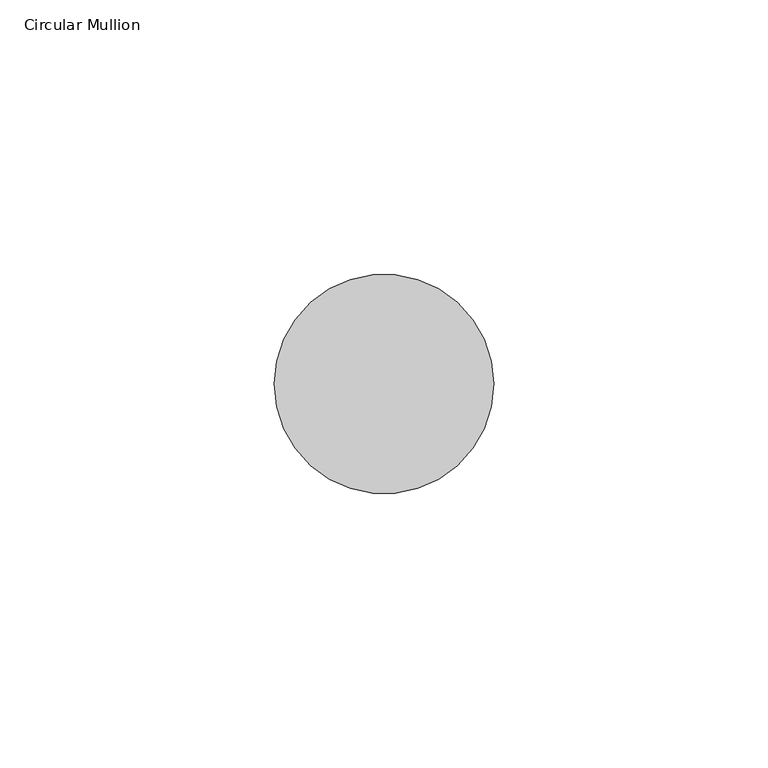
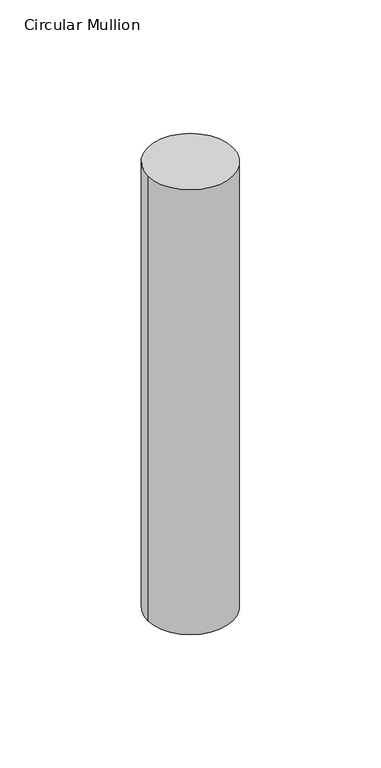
"""IFC4 building model written with IfcOpenShell, lengths in millimetres: member geometry, Circular Mullion : GRADIL 40mm."""

from ifc_helpers import new_model, si_unit, point, frame, origin, origin_2d, place, context, project, spatial, circle_curve, trimmed, segment, composite_curve, outline, extrude, source, transform, mapped, element, save


def circular_mullion_9126d0c8(model_context):
    return source(origin(), model_context, "Body", "SweptSolid", [
        extrude(outline(composite_curve([segment(trimmed(circle_curve(origin_2d(), 20.0), [point((20.0, 0.0))], [point((-20.0, 0.0))], False, "CARTESIAN"), True, "CONTINUOUS"), segment(trimmed(circle_curve(origin_2d(), 20.0), [point((-20.0, 0.0))], [point((20.0, 0.0))], False, "CARTESIAN"), True, "CONTINUOUS")], self_intersect=False)), frame((0.0, 0.0, -220.5845797), z_axis=(0.0, 0.0, 1.0), x_axis=(1.0, 0.0, 0.0)), (0.0, 0.0, 1.0), 220.5845797),
    ])


if __name__ == "__main__":
    model = new_model("IFC4")
    model_context = context("Model", 3, world=origin())
    ifc_project = project(units=[si_unit("LENGTHUNIT", "METRE", prefix="MILLI")], contexts=[model_context])
    site = spatial("IfcSite", under=ifc_project)
    building = spatial("IfcBuilding", under=site)
    placement = place(None, origin())
    circular_mullion_shape = circular_mullion_9126d0c8(model_context)
    element("IfcMember", 1, ObjectType="Circular Mullion : GRADIL 40mm", at=placement, inside=building, context=model_context, shape_type="MappedRepresentation", body=[
        mapped(circular_mullion_shape, transform((0.0, 0.0, 0.0), x_axis=(1.0, 0.0, 0.0), y_axis=(0.0, 1.0, 0.0), z_axis=(0.0, 0.0, 1.0))),
    ])
    save(model, "model.ifc")
